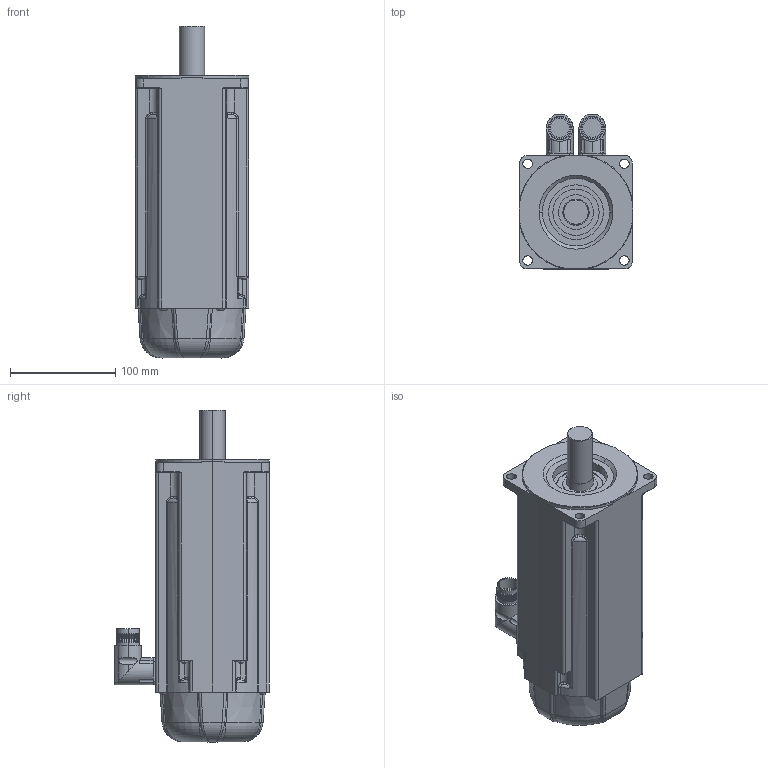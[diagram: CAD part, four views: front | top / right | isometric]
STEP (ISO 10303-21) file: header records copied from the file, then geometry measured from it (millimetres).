
FILE_DESCRIPTION (( 'STEP AP214' ), '1' );
FILE_NAME ('MR7754-Ux-Nxx-G01-A0D-MS-P0.stp', '2009-04-08T13:46:00', ( 'SysAdmin' ), ( 'SolidWorks' ), 'SwSTEP 2.0', 'SolidWorks 2009', '' );
FILE_SCHEMA (( 'AUTOMOTIVE_DESIGN' ));
Length unit declared in the file: millimetre
Products named in the file (1): MR7754-Ux-Nxx-G01-A0D-MS-P0
Bounding box: 108 x 147 x 315.5 mm (x, y, z)
Volume: 2596375.7 mm3; surface area: 140976.9 mm2
Topology: 1 solids, 1 shells, 601 faces, 1466 edges, 864 vertices
Faces by surface type: cylinder 176, bspline 136, plane 129, cone 108, torus 52
Entity records: 28863 total; most frequent: CARTESIAN_POINT 9792, ORIENTED_EDGE 2876, DIRECTION 2502, EDGE_CURVE 1438, AXIS2_PLACEMENT_3D 1062, VERTEX_POINT 864, EDGE_LOOP 634, FACE_OUTER_BOUND 601
